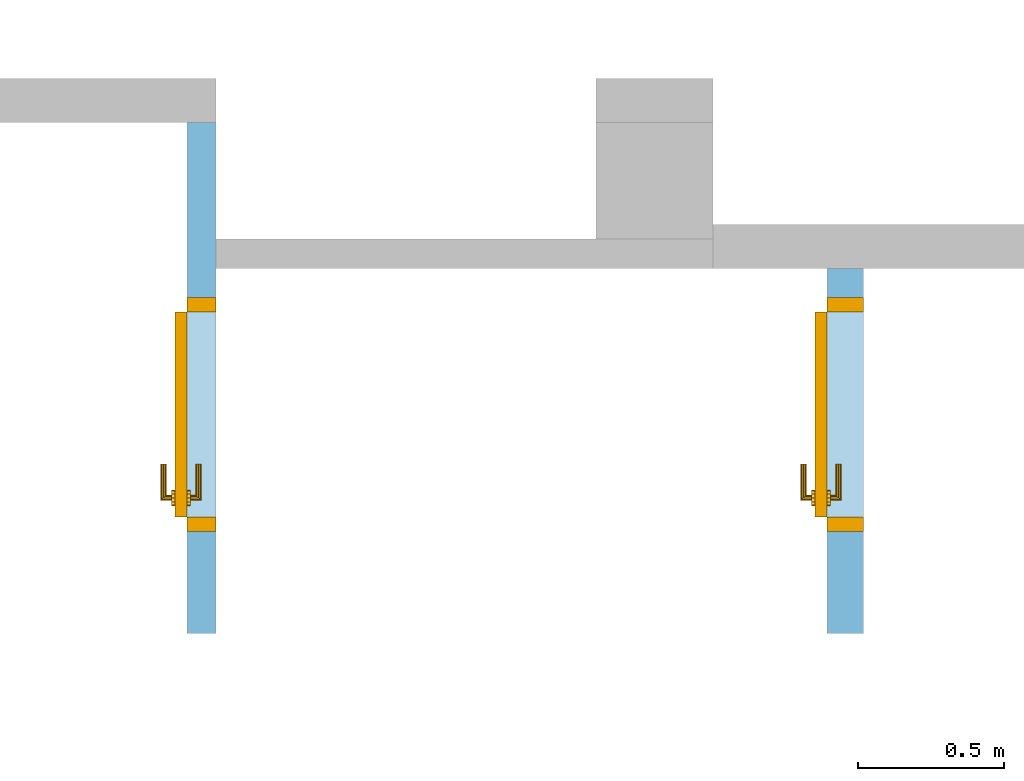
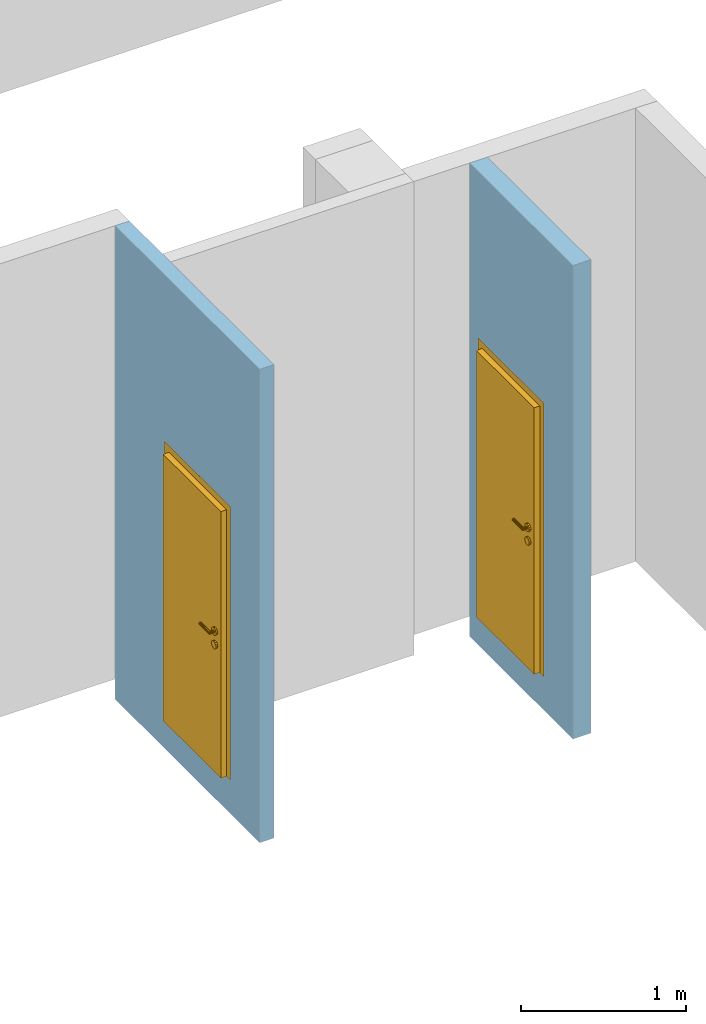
# One storey, part 32 of 37: 2 doors, 2 openings, plus 2 elements that do not belong to this part.
"""IFC4 building model written with IfcOpenShell, lengths in metres."""

from ifc_helpers import new_model, entity, si_unit, converted_unit, derived_unit, frame, frame_2d, origin, origin_with_axes, place, context, subcontext, project, spatial, polyline, rectangle, outline, extrude, closed_shell, open_shell, surface_model, source, transform, mapped, material, layer, layer_set, layer_usage, type_object, element, fill, save


model = new_model("IFC4")

# Units and contexts
model_context = context("Model", 3, precision=1e-05, world=origin())
body_context = subcontext(model_context, "Body", "Model", "MODEL_VIEW")
ifc_project = project(units=[si_unit("LENGTHUNIT", "METRE"), si_unit("AREAUNIT", "SQUARE_METRE"), si_unit("VOLUMEUNIT", "CUBIC_METRE"), si_unit("MASSUNIT", "GRAM", prefix="KILO"), converted_unit("PLANEANGLEUNIT", "DEGREE", entity("IfcPlaneAngleMeasure", 0.0174532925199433), si_unit("PLANEANGLEUNIT", "RADIAN"), dimensions=[0, 0, 0, 0, 0, 0, 0]), derived_unit("THERMALTRANSMITTANCEUNIT", [(si_unit("POWERUNIT", "WATT"), 1), (si_unit("THERMODYNAMICTEMPERATUREUNIT", "KELVIN"), -1), (si_unit("LENGTHUNIT", "METRE"), -2)]), derived_unit("VOLUMETRICFLOWRATEUNIT", [(si_unit("LENGTHUNIT", "METRE"), 3), (converted_unit("TIMEUNIT", "hour", entity("IfcTimeMeasure", 3600.0), si_unit("TIMEUNIT", "SECOND"), dimensions=[0, 0, 1, 0, 0, 0, 0]), -1), (si_unit("LENGTHUNIT", "METRE"), -1)])], contexts=[model_context])

# Site, building, storey
site_placement = place(None, origin())
site = spatial("IfcSite", under=ifc_project, at=site_placement, Name="3. ASŘ", CompositionType="ELEMENT")
building_placement = place(site_placement, origin())
building = spatial("IfcBuilding", under=site, at=building_placement, Name="Pavilon B", CompositionType="ELEMENT")
storey_placement = place(building_placement, origin())
storey = spatial("IfcBuildingStorey", under=building, at=storey_placement, Name="Půdorys 1.NP", CompositionType="ELEMENT", Elevation=0.0)

# Wall, opening, door
ifc_material_1 = material(Name="YTONG 100")
ifc_layer_1 = layer(ifc_material_1, 0.1)
ifc_layer_set_1 = layer_set([ifc_layer_1])
ifc_layer_usage_1 = layer_usage(ifc_layer_set_1, "AXIS2", "POSITIVE", 0.0)
wall_1_placement = place(storey_placement, frame((54.8, -23.15, -0.25), z_axis=(0.0, 0.0, 1.0), x_axis=(0.0, 1.0, 0.0)))
wall_1 = element("IfcWall", 1, at=wall_1_placement, inside=storey, material=ifc_layer_usage_1, Name="YTONG 100", context=body_context, shape_type="SweptSolid", body=[
    extrude(rectangle(XDim=1.75, YDim=0.1, at=frame_2d((0.875, 0.05), x_axis=(1.0, 0.0))), origin_with_axes(), (0.0, 0.0, 1.0), 3.5),
])
opening_1_placement = place(wall_1_placement, frame((0.350000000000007, 0.0, 0.25), z_axis=(0.0, 1.0, 0.0), x_axis=(0.0, 0.0, 1.0)))
opening_1 = element("IfcOpeningElement", 2, at=opening_1_placement, cuts=wall_1, Name="Dveřní otvor", ObjectType="Opening", context=body_context, shape_type="SweptSolid", body=[
    extrude(outline(polyline([(0.0, 0.8), (2.02, 0.8), (2.02, 0.0), (0.0, 0.0), (0.0, 0.8)])), origin_with_axes(), (0.0, 0.0, 1.0), 0.1),
])
door_type_1 = type_object("IfcDoorType", Name="D101", OperationType="NOTDEFINED", ParameterTakesPrecedence=False, PredefinedType="DOOR")
shared_shape_1 = source(origin_with_axes(), body_context, "Body", "SurfaceModel", [
    surface_model("IfcShellBasedSurfaceModel", [(0.0, 0.1, 2.02), (0.0, 0.1, -6.12323399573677e-18), (0.05, 0.1, -6.12323399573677e-18), (0.05, 0.1, 2.02), (0.0, 0.0, 6.12323399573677e-18), (0.0, 2.41584530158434e-16, 2.02), (0.05, 2.41584530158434e-16, 2.02), (0.05, 0.0, 6.12323399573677e-18)], [closed_shell([[[0, 1, 2, 3]], [[4, 5, 6, 7]], [[1, 0, 5, 4]], [[2, 1, 4, 7]], [[3, 2, 7, 6]], [[0, 3, 6, 5]]], orient=[[False], [False], [False], [False], [False], [False]])]),
    surface_model("IfcShellBasedSurfaceModel", [(0.75, 0.1, 2.02), (0.75, 0.1, -6.12323399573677e-18), (0.8, 0.1, -6.12323399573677e-18), (0.8, 0.1, 2.02), (0.75, 0.0, 6.12323399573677e-18), (0.75, 2.41584530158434e-16, 2.02), (0.8, 2.41584530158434e-16, 2.02), (0.8, 0.0, 6.12323399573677e-18)], [closed_shell([[[0, 1, 2, 3]], [[4, 5, 6, 7]], [[1, 0, 5, 4]], [[2, 1, 4, 7]], [[3, 2, 7, 6]], [[0, 3, 6, 5]]], orient=[[False], [False], [False], [False], [False], [False]])]),
    surface_model("IfcShellBasedSurfaceModel", [(0.05, 0.1, 2.02), (0.05, 0.1, 1.97), (0.75, 0.1, 1.97), (0.75, 0.1, 2.02), (0.05, 2.41584530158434e-16, 1.97), (0.05, 2.41584530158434e-16, 2.02), (0.75, 2.41584530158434e-16, 2.02), (0.75, 2.41584530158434e-16, 1.97)], [closed_shell([[[0, 1, 2, 3]], [[4, 5, 6, 7]], [[1, 0, 5, 4]], [[2, 1, 4, 7]], [[3, 2, 7, 6]], [[0, 3, 6, 5]]], orient=[[False], [False], [False], [False], [False], [False]])]),
    surface_model("IfcShellBasedSurfaceModel", [(0.05, 0.14, 1.97), (0.05, 0.14, -1.10218211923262e-17), (0.75, 0.14, -1.10218211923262e-17), (0.75, 0.14, 1.97), (0.05, 0.1, -6.12323399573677e-18), (0.05, 0.1, 1.97), (0.75, 0.1, 1.97), (0.75, 0.1, -6.12323399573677e-18)], [closed_shell([[[0, 1, 2, 3]], [[4, 5, 6, 7]], [[1, 0, 5, 4]], [[2, 1, 4, 7]], [[3, 2, 7, 6]], [[0, 3, 6, 5]]], orient=[[False], [False], [False], [False], [False], [False]])]),
    surface_model("IfcShellBasedSurfaceModel", [(0.708815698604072, 0.1, 0.93625), (0.7125, 0.1, 0.95), (0.708815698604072, 0.1, 0.96375), (0.69875, 0.1, 0.973815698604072), (0.685, 0.1, 0.9775), (0.67125, 0.1, 0.973815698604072), (0.661184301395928, 0.1, 0.96375), (0.6575, 0.1, 0.95), (0.661184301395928, 0.1, 0.93625), (0.67125, 0.1, 0.926184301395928), (0.685, 0.1, 0.9225), (0.69875, 0.1, 0.926184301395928), (0.7125, 0.0875000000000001, 0.95), (0.708815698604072, 0.0875000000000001, 0.93625), (0.69875, 0.0875000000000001, 0.926184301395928), (0.685, 0.0875000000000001, 0.9225), (0.67125, 0.0875000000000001, 0.926184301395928), (0.661184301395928, 0.0875000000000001, 0.93625), (0.6575, 0.0875000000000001, 0.95), (0.661184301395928, 0.0875000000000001, 0.96375), (0.67125, 0.0875000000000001, 0.973815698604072), (0.685, 0.0875000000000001, 0.9775), (0.69875, 0.0875000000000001, 0.973815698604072), (0.708815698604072, 0.0875000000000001, 0.96375)], [closed_shell([[[0, 1, 2, 3, 4, 5, 6, 7, 8, 9, 10, 11]], [[12, 13, 14, 15, 16, 17, 18, 19, 20, 21, 22, 23]], [[1, 0, 13, 12]], [[2, 1, 12, 23]], [[3, 2, 23, 22]], [[4, 3, 22, 21]], [[5, 4, 21, 20]], [[6, 5, 20, 19]], [[7, 6, 19, 18]], [[8, 7, 18, 17]], [[9, 8, 17, 16]], [[10, 9, 16, 15]], [[11, 10, 15, 14]], [[0, 11, 14, 13]]], orient=[[False], [False], [False], [False], [False], [False], [False], [False], [False], [False], [False], [False], [False], [False]])]),
    surface_model("IfcShellBasedSurfaceModel", [(0.708815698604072, 0.1, 1.03625), (0.7125, 0.1, 1.05), (0.708815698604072, 0.1, 1.06375), (0.69875, 0.1, 1.07381569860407), (0.685, 0.1, 1.0775), (0.67125, 0.1, 1.07381569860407), (0.661184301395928, 0.1, 1.06375), (0.6575, 0.1, 1.05), (0.661184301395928, 0.1, 1.03625), (0.67125, 0.1, 1.02618430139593), (0.685, 0.1, 1.0225), (0.69875, 0.1, 1.02618430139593), (0.7125, 0.0875000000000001, 1.05), (0.708815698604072, 0.0875000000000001, 1.03625), (0.69875, 0.0875000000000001, 1.02618430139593), (0.685, 0.0875000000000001, 1.0225), (0.67125, 0.0875000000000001, 1.02618430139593), (0.661184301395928, 0.0875000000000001, 1.03625), (0.6575, 0.0875000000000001, 1.05), (0.661184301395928, 0.0875000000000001, 1.06375), (0.67125, 0.0875000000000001, 1.07381569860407), (0.685, 0.0875000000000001, 1.0775), (0.69875, 0.0875000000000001, 1.07381569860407), (0.708815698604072, 0.0875000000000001, 1.06375)], [closed_shell([[[0, 1, 2, 3, 4, 5, 6, 7, 8, 9, 10, 11]], [[12, 13, 14, 15, 16, 17, 18, 19, 20, 21, 22, 23]], [[1, 0, 13, 12]], [[2, 1, 12, 23]], [[3, 2, 23, 22]], [[4, 3, 22, 21]], [[5, 4, 21, 20]], [[6, 5, 20, 19]], [[7, 6, 19, 18]], [[8, 7, 18, 17]], [[9, 8, 17, 16]], [[10, 9, 16, 15]], [[11, 10, 15, 14]], [[0, 11, 14, 13]]], orient=[[False], [False], [False], [False], [False], [False], [False], [False], [False], [False], [False], [False], [False], [False]])]),
    surface_model("IfcShellBasedSurfaceModel", [(0.685, 0.1, 1.06), (0.68, 0.1, 1.05866025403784), (0.676339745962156, 0.1, 1.055), (0.675, 0.1, 1.05), (0.676339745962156, 0.1, 1.045), (0.68, 0.1, 1.04133974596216), (0.685, 0.1, 1.04), (0.69, 0.1, 1.04133974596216), (0.693660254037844, 0.1, 1.045), (0.695, 0.1, 1.05), (0.693660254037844, 0.1, 1.055), (0.69, 0.1, 1.05866025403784), (0.69, 0.0550000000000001, 1.05866025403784), (0.685, 0.0600000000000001, 1.06), (0.693660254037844, 0.0513397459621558, 1.055), (0.695, 0.0500000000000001, 1.05), (0.693660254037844, 0.0513397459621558, 1.045), (0.69, 0.0550000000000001, 1.04133974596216), (0.685, 0.0600000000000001, 1.04), (0.68, 0.0650000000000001, 1.04133974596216), (0.676339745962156, 0.0686602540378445, 1.045), (0.675, 0.0700000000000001, 1.05), (0.676339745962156, 0.0686602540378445, 1.055), (0.68, 0.0650000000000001, 1.05866025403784), (0.57, 0.0550000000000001, 1.05866025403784), (0.57, 0.0600000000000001, 1.06), (0.57, 0.0513397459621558, 1.055), (0.57, 0.0500000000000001, 1.05), (0.57, 0.0513397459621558, 1.045), (0.57, 0.0550000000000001, 1.04133974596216), (0.57, 0.0600000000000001, 1.04), (0.57, 0.0650000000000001, 1.04133974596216), (0.57, 0.0686602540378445, 1.045), (0.57, 0.0700000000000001, 1.05), (0.57, 0.0686602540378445, 1.055), (0.57, 0.0650000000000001, 1.05866025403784)], [open_shell([[[0, 1, 2, 3, 4, 5, 6, 7, 8, 9, 10, 11]], [[0, 11, 12, 13]], [[11, 10, 14, 12]], [[10, 9, 15, 14]], [[9, 8, 16, 15]], [[8, 7, 17, 16]], [[7, 6, 18, 17]], [[6, 5, 19, 18]], [[5, 4, 20, 19]], [[4, 3, 21, 20]], [[3, 2, 22, 21]], [[2, 1, 23, 22]], [[1, 0, 13, 23]], [[13, 12, 24, 25]], [[12, 14, 26, 24]], [[14, 15, 27, 26]], [[15, 16, 28, 27]], [[16, 17, 29, 28]], [[17, 18, 30, 29]], [[18, 19, 31, 30]], [[19, 20, 32, 31]], [[20, 21, 33, 32]], [[21, 22, 34, 33]], [[22, 23, 35, 34]], [[23, 13, 25, 35]]], orient=[[False], [False], [False], [False], [False], [False], [False], [False], [False], [False], [False], [False], [False], [False], [False], [False], [False], [False], [False], [False], [False], [False], [False], [False], [False]])]),
    surface_model("IfcShellBasedSurfaceModel", [(0.708815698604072, 0.14, 0.93625), (0.69875, 0.14, 0.926184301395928), (0.685, 0.14, 0.9225), (0.67125, 0.14, 0.926184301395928), (0.661184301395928, 0.14, 0.93625), (0.6575, 0.14, 0.95), (0.661184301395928, 0.14, 0.96375), (0.67125, 0.14, 0.973815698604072), (0.685, 0.14, 0.9775), (0.69875, 0.14, 0.973815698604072), (0.708815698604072, 0.14, 0.96375), (0.7125, 0.14, 0.95), (0.7125, 0.1525, 0.95), (0.708815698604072, 0.1525, 0.96375), (0.69875, 0.1525, 0.973815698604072), (0.685, 0.1525, 0.9775), (0.67125, 0.1525, 0.973815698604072), (0.661184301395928, 0.1525, 0.96375), (0.6575, 0.1525, 0.95), (0.661184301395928, 0.1525, 0.93625), (0.67125, 0.1525, 0.926184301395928), (0.685, 0.1525, 0.9225), (0.69875, 0.1525, 0.926184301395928), (0.708815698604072, 0.1525, 0.93625)], [closed_shell([[[0, 1, 2, 3, 4, 5, 6, 7, 8, 9, 10, 11]], [[12, 13, 14, 15, 16, 17, 18, 19, 20, 21, 22, 23]], [[11, 12, 23, 0]], [[10, 13, 12, 11]], [[9, 14, 13, 10]], [[8, 15, 14, 9]], [[7, 16, 15, 8]], [[6, 17, 16, 7]], [[5, 18, 17, 6]], [[4, 19, 18, 5]], [[3, 20, 19, 4]], [[2, 21, 20, 3]], [[1, 22, 21, 2]], [[0, 23, 22, 1]]], orient=[[False], [False], [False], [False], [False], [False], [False], [False], [False], [False], [False], [False], [False], [False]])]),
    surface_model("IfcShellBasedSurfaceModel", [(0.708815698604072, 0.14, 1.03625), (0.69875, 0.14, 1.02618430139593), (0.685, 0.14, 1.0225), (0.67125, 0.14, 1.02618430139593), (0.661184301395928, 0.14, 1.03625), (0.6575, 0.14, 1.05), (0.661184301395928, 0.14, 1.06375), (0.67125, 0.14, 1.07381569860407), (0.685, 0.14, 1.0775), (0.69875, 0.14, 1.07381569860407), (0.708815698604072, 0.14, 1.06375), (0.7125, 0.14, 1.05), (0.7125, 0.1525, 1.05), (0.708815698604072, 0.1525, 1.06375), (0.69875, 0.1525, 1.07381569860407), (0.685, 0.1525, 1.0775), (0.67125, 0.1525, 1.07381569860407), (0.661184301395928, 0.1525, 1.06375), (0.6575, 0.1525, 1.05), (0.661184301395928, 0.1525, 1.03625), (0.67125, 0.1525, 1.02618430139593), (0.685, 0.1525, 1.0225), (0.69875, 0.1525, 1.02618430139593), (0.708815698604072, 0.1525, 1.03625)], [closed_shell([[[0, 1, 2, 3, 4, 5, 6, 7, 8, 9, 10, 11]], [[12, 13, 14, 15, 16, 17, 18, 19, 20, 21, 22, 23]], [[11, 12, 23, 0]], [[10, 13, 12, 11]], [[9, 14, 13, 10]], [[8, 15, 14, 9]], [[7, 16, 15, 8]], [[6, 17, 16, 7]], [[5, 18, 17, 6]], [[4, 19, 18, 5]], [[3, 20, 19, 4]], [[2, 21, 20, 3]], [[1, 22, 21, 2]], [[0, 23, 22, 1]]], orient=[[False], [False], [False], [False], [False], [False], [False], [False], [False], [False], [False], [False], [False], [False]])]),
    surface_model("IfcShellBasedSurfaceModel", [(0.685, 0.14, 1.06), (0.69, 0.14, 1.05866025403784), (0.693660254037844, 0.14, 1.055), (0.695, 0.14, 1.05), (0.693660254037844, 0.14, 1.045), (0.69, 0.14, 1.04133974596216), (0.685, 0.14, 1.04), (0.68, 0.14, 1.04133974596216), (0.676339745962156, 0.14, 1.045), (0.675, 0.14, 1.05), (0.676339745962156, 0.14, 1.055), (0.68, 0.14, 1.05866025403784), (0.685, 0.18, 1.06), (0.69, 0.185, 1.05866025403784), (0.693660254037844, 0.188660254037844, 1.055), (0.695, 0.19, 1.05), (0.693660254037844, 0.188660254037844, 1.045), (0.69, 0.185, 1.04133974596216), (0.685, 0.18, 1.04), (0.68, 0.175, 1.04133974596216), (0.676339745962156, 0.171339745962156, 1.045), (0.675, 0.17, 1.05), (0.676339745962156, 0.171339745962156, 1.055), (0.68, 0.175, 1.05866025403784), (0.57, 0.18, 1.06), (0.57, 0.185, 1.05866025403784), (0.57, 0.188660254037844, 1.055), (0.57, 0.19, 1.05), (0.57, 0.188660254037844, 1.045), (0.57, 0.185, 1.04133974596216), (0.57, 0.18, 1.04), (0.57, 0.175, 1.04133974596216), (0.57, 0.171339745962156, 1.045), (0.57, 0.17, 1.05), (0.57, 0.171339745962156, 1.055), (0.57, 0.175, 1.05866025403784)], [open_shell([[[0, 1, 2, 3, 4, 5, 6, 7, 8, 9, 10, 11]], [[0, 12, 13, 1]], [[1, 13, 14, 2]], [[2, 14, 15, 3]], [[3, 15, 16, 4]], [[4, 16, 17, 5]], [[5, 17, 18, 6]], [[6, 18, 19, 7]], [[7, 19, 20, 8]], [[8, 20, 21, 9]], [[9, 21, 22, 10]], [[10, 22, 23, 11]], [[11, 23, 12, 0]], [[12, 24, 25, 13]], [[13, 25, 26, 14]], [[14, 26, 27, 15]], [[15, 27, 28, 16]], [[16, 28, 29, 17]], [[17, 29, 30, 18]], [[18, 30, 31, 19]], [[19, 31, 32, 20]], [[20, 32, 33, 21]], [[21, 33, 34, 22]], [[22, 34, 35, 23]], [[23, 35, 24, 12]]], orient=[[False], [False], [False], [False], [False], [False], [False], [False], [False], [False], [False], [False], [False], [False], [False], [False], [False], [False], [False], [False], [False], [False], [False], [False], [False]])]),
])
door_1_placement = place(opening_1_placement, frame((0.0, 0.800000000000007, 1.45519152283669e-14), z_axis=(1.0, 0.0, 0.0), x_axis=(0.0, -1.0, 1.22464679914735e-16)))
door_1 = element("IfcDoor", 3, at=door_1_placement, inside=storey, type_object=door_type_1, Name="D101", OverallHeight=2.02, OverallWidth=0.8, context=body_context, shape_type="MappedRepresentation", body=[
    mapped(shared_shape_1, transform((0.0, 0.0, 0.0), x_axis=(1.0, 0.0, 0.0), y_axis=(0.0, -1.0, 0.0), z_axis=(0.0, 0.0, 1.0), scale=1.0)),
])
fill(opening_1, door_1)

ifc_material_2 = material(Name="YTONG 125")
ifc_layer_2 = layer(ifc_material_2, 0.125)
ifc_layer_set_2 = layer_set([ifc_layer_2])
ifc_layer_usage_2 = layer_usage(ifc_layer_set_2, "AXIS2", "POSITIVE", 0.0)
wall_2_placement = place(storey_placement, frame((57.015, -23.15, -0.25), z_axis=(0.0, 0.0, 1.0), x_axis=(0.0, 1.0, 0.0)))
wall_2 = element("IfcWall", 4, at=wall_2_placement, inside=storey, material=ifc_layer_usage_2, Name="YTONG 125", context=body_context, shape_type="SweptSolid", body=[
    extrude(rectangle(XDim=1.25, YDim=0.125, at=frame_2d((0.625, 0.0625), x_axis=(1.0, 0.0))), origin_with_axes(), (0.0, 0.0, 1.0), 3.5),
])
opening_2_placement = place(wall_2_placement, frame((0.350000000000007, 0.0, 0.25), z_axis=(0.0, 1.0, 0.0), x_axis=(0.0, 0.0, 1.0)))
opening_2 = element("IfcOpeningElement", 5, at=opening_2_placement, cuts=wall_2, Name="Dveřní otvor", ObjectType="Opening", context=body_context, shape_type="SweptSolid", body=[
    extrude(outline(polyline([(0.0, 0.8), (2.02, 0.8), (2.02, 0.0), (0.0, 0.0), (0.0, 0.8)])), origin_with_axes(), (0.0, 0.0, 1.0), 0.125),
])
door_type_2 = type_object("IfcDoorType", Name="D101", OperationType="NOTDEFINED", ParameterTakesPrecedence=False, PredefinedType="DOOR")
shared_shape_2 = source(origin_with_axes(), body_context, "Body", "SurfaceModel", [
    surface_model("IfcShellBasedSurfaceModel", [(0.0, 0.125, 2.02), (0.0, 0.125, -7.65404249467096e-18), (0.05, 0.125, -7.65404249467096e-18), (0.05, 0.125, 2.02), (0.0, 0.0, 7.65404249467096e-18), (0.0, 2.41584530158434e-16, 2.02), (0.05, 2.41584530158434e-16, 2.02), (0.05, 0.0, 7.65404249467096e-18)], [closed_shell([[[0, 1, 2, 3]], [[4, 5, 6, 7]], [[1, 0, 5, 4]], [[2, 1, 4, 7]], [[3, 2, 7, 6]], [[0, 3, 6, 5]]], orient=[[False], [False], [False], [False], [False], [False]])]),
    surface_model("IfcShellBasedSurfaceModel", [(0.75, 0.125, 2.02), (0.75, 0.125, -7.65404249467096e-18), (0.8, 0.125, -7.65404249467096e-18), (0.8, 0.125, 2.02), (0.75, 0.0, 7.65404249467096e-18), (0.75, 2.41584530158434e-16, 2.02), (0.8, 2.41584530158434e-16, 2.02), (0.8, 0.0, 7.65404249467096e-18)], [closed_shell([[[0, 1, 2, 3]], [[4, 5, 6, 7]], [[1, 0, 5, 4]], [[2, 1, 4, 7]], [[3, 2, 7, 6]], [[0, 3, 6, 5]]], orient=[[False], [False], [False], [False], [False], [False]])]),
    surface_model("IfcShellBasedSurfaceModel", [(0.05, 0.125, 2.02), (0.05, 0.125, 1.97), (0.75, 0.125, 1.97), (0.75, 0.125, 2.02), (0.05, 2.41584530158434e-16, 1.97), (0.05, 2.41584530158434e-16, 2.02), (0.75, 2.41584530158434e-16, 2.02), (0.75, 2.41584530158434e-16, 1.97)], [closed_shell([[[0, 1, 2, 3]], [[4, 5, 6, 7]], [[1, 0, 5, 4]], [[2, 1, 4, 7]], [[3, 2, 7, 6]], [[0, 3, 6, 5]]], orient=[[False], [False], [False], [False], [False], [False]])]),
    surface_model("IfcShellBasedSurfaceModel", [(0.05, 0.165, 1.97), (0.05, 0.165, -1.25526296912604e-17), (0.75, 0.165, -1.25526296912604e-17), (0.75, 0.165, 1.97), (0.05, 0.125, -7.65404249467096e-18), (0.05, 0.125, 1.97), (0.75, 0.125, 1.97), (0.75, 0.125, -7.65404249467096e-18)], [closed_shell([[[0, 1, 2, 3]], [[4, 5, 6, 7]], [[1, 0, 5, 4]], [[2, 1, 4, 7]], [[3, 2, 7, 6]], [[0, 3, 6, 5]]], orient=[[False], [False], [False], [False], [False], [False]])]),
    surface_model("IfcShellBasedSurfaceModel", [(0.708815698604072, 0.125, 0.93625), (0.7125, 0.125, 0.95), (0.708815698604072, 0.125, 0.96375), (0.69875, 0.125, 0.973815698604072), (0.685, 0.125, 0.9775), (0.67125, 0.125, 0.973815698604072), (0.661184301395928, 0.125, 0.96375), (0.6575, 0.125, 0.95), (0.661184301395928, 0.125, 0.93625), (0.67125, 0.125, 0.926184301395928), (0.685, 0.125, 0.9225), (0.69875, 0.125, 0.926184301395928), (0.7125, 0.1125, 0.95), (0.708815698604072, 0.1125, 0.93625), (0.69875, 0.1125, 0.926184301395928), (0.685, 0.1125, 0.9225), (0.67125, 0.1125, 0.926184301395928), (0.661184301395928, 0.1125, 0.93625), (0.6575, 0.1125, 0.95), (0.661184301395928, 0.1125, 0.96375), (0.67125, 0.1125, 0.973815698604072), (0.685, 0.1125, 0.9775), (0.69875, 0.1125, 0.973815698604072), (0.708815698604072, 0.1125, 0.96375)], [closed_shell([[[0, 1, 2, 3, 4, 5, 6, 7, 8, 9, 10, 11]], [[12, 13, 14, 15, 16, 17, 18, 19, 20, 21, 22, 23]], [[1, 0, 13, 12]], [[2, 1, 12, 23]], [[3, 2, 23, 22]], [[4, 3, 22, 21]], [[5, 4, 21, 20]], [[6, 5, 20, 19]], [[7, 6, 19, 18]], [[8, 7, 18, 17]], [[9, 8, 17, 16]], [[10, 9, 16, 15]], [[11, 10, 15, 14]], [[0, 11, 14, 13]]], orient=[[False], [False], [False], [False], [False], [False], [False], [False], [False], [False], [False], [False], [False], [False]])]),
    surface_model("IfcShellBasedSurfaceModel", [(0.708815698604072, 0.125, 1.03625), (0.7125, 0.125, 1.05), (0.708815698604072, 0.125, 1.06375), (0.69875, 0.125, 1.07381569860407), (0.685, 0.125, 1.0775), (0.67125, 0.125, 1.07381569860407), (0.661184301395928, 0.125, 1.06375), (0.6575, 0.125, 1.05), (0.661184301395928, 0.125, 1.03625), (0.67125, 0.125, 1.02618430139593), (0.685, 0.125, 1.0225), (0.69875, 0.125, 1.02618430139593), (0.7125, 0.1125, 1.05), (0.708815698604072, 0.1125, 1.03625), (0.69875, 0.1125, 1.02618430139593), (0.685, 0.1125, 1.0225), (0.67125, 0.1125, 1.02618430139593), (0.661184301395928, 0.1125, 1.03625), (0.6575, 0.1125, 1.05), (0.661184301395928, 0.1125, 1.06375), (0.67125, 0.1125, 1.07381569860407), (0.685, 0.1125, 1.0775), (0.69875, 0.1125, 1.07381569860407), (0.708815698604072, 0.1125, 1.06375)], [closed_shell([[[0, 1, 2, 3, 4, 5, 6, 7, 8, 9, 10, 11]], [[12, 13, 14, 15, 16, 17, 18, 19, 20, 21, 22, 23]], [[1, 0, 13, 12]], [[2, 1, 12, 23]], [[3, 2, 23, 22]], [[4, 3, 22, 21]], [[5, 4, 21, 20]], [[6, 5, 20, 19]], [[7, 6, 19, 18]], [[8, 7, 18, 17]], [[9, 8, 17, 16]], [[10, 9, 16, 15]], [[11, 10, 15, 14]], [[0, 11, 14, 13]]], orient=[[False], [False], [False], [False], [False], [False], [False], [False], [False], [False], [False], [False], [False], [False]])]),
    surface_model("IfcShellBasedSurfaceModel", [(0.685, 0.125, 1.06), (0.68, 0.125, 1.05866025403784), (0.676339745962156, 0.125, 1.055), (0.675, 0.125, 1.05), (0.676339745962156, 0.125, 1.045), (0.68, 0.125, 1.04133974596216), (0.685, 0.125, 1.04), (0.69, 0.125, 1.04133974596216), (0.693660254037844, 0.125, 1.045), (0.695, 0.125, 1.05), (0.693660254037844, 0.125, 1.055), (0.69, 0.125, 1.05866025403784), (0.69, 0.0800000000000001, 1.05866025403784), (0.685, 0.0850000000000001, 1.06), (0.693660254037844, 0.0763397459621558, 1.055), (0.695, 0.0750000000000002, 1.05), (0.693660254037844, 0.0763397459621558, 1.045), (0.69, 0.0800000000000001, 1.04133974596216), (0.685, 0.0850000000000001, 1.04), (0.68, 0.0900000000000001, 1.04133974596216), (0.676339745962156, 0.0936602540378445, 1.045), (0.675, 0.0950000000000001, 1.05), (0.676339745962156, 0.0936602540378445, 1.055), (0.68, 0.0900000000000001, 1.05866025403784), (0.57, 0.0800000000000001, 1.05866025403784), (0.57, 0.0850000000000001, 1.06), (0.57, 0.0763397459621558, 1.055), (0.57, 0.0750000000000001, 1.05), (0.57, 0.0763397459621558, 1.045), (0.57, 0.0800000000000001, 1.04133974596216), (0.57, 0.0850000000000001, 1.04), (0.57, 0.0900000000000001, 1.04133974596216), (0.57, 0.0936602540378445, 1.045), (0.57, 0.0950000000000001, 1.05), (0.57, 0.0936602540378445, 1.055), (0.57, 0.0900000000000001, 1.05866025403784)], [open_shell([[[0, 1, 2, 3, 4, 5, 6, 7, 8, 9, 10, 11]], [[0, 11, 12, 13]], [[11, 10, 14, 12]], [[10, 9, 15, 14]], [[9, 8, 16, 15]], [[8, 7, 17, 16]], [[7, 6, 18, 17]], [[6, 5, 19, 18]], [[5, 4, 20, 19]], [[4, 3, 21, 20]], [[3, 2, 22, 21]], [[2, 1, 23, 22]], [[1, 0, 13, 23]], [[13, 12, 24, 25]], [[12, 14, 26, 24]], [[14, 15, 27, 26]], [[15, 16, 28, 27]], [[16, 17, 29, 28]], [[17, 18, 30, 29]], [[18, 19, 31, 30]], [[19, 20, 32, 31]], [[20, 21, 33, 32]], [[21, 22, 34, 33]], [[22, 23, 35, 34]], [[23, 13, 25, 35]]], orient=[[False], [False], [False], [False], [False], [False], [False], [False], [False], [False], [False], [False], [False], [False], [False], [False], [False], [False], [False], [False], [False], [False], [False], [False], [False]])]),
    surface_model("IfcShellBasedSurfaceModel", [(0.708815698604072, 0.165, 0.93625), (0.69875, 0.165, 0.926184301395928), (0.685, 0.165, 0.9225), (0.67125, 0.165, 0.926184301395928), (0.661184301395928, 0.165, 0.93625), (0.6575, 0.165, 0.95), (0.661184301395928, 0.165, 0.96375), (0.67125, 0.165, 0.973815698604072), (0.685, 0.165, 0.9775), (0.69875, 0.165, 0.973815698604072), (0.708815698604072, 0.165, 0.96375), (0.7125, 0.165, 0.95), (0.7125, 0.1775, 0.95), (0.708815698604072, 0.1775, 0.96375), (0.69875, 0.1775, 0.973815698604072), (0.685, 0.1775, 0.9775), (0.67125, 0.1775, 0.973815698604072), (0.661184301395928, 0.1775, 0.96375), (0.6575, 0.1775, 0.95), (0.661184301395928, 0.1775, 0.93625), (0.67125, 0.1775, 0.926184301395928), (0.685, 0.1775, 0.9225), (0.69875, 0.1775, 0.926184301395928), (0.708815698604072, 0.1775, 0.93625)], [closed_shell([[[0, 1, 2, 3, 4, 5, 6, 7, 8, 9, 10, 11]], [[12, 13, 14, 15, 16, 17, 18, 19, 20, 21, 22, 23]], [[11, 12, 23, 0]], [[10, 13, 12, 11]], [[9, 14, 13, 10]], [[8, 15, 14, 9]], [[7, 16, 15, 8]], [[6, 17, 16, 7]], [[5, 18, 17, 6]], [[4, 19, 18, 5]], [[3, 20, 19, 4]], [[2, 21, 20, 3]], [[1, 22, 21, 2]], [[0, 23, 22, 1]]], orient=[[False], [False], [False], [False], [False], [False], [False], [False], [False], [False], [False], [False], [False], [False]])]),
    surface_model("IfcShellBasedSurfaceModel", [(0.708815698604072, 0.165, 1.03625), (0.69875, 0.165, 1.02618430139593), (0.685, 0.165, 1.0225), (0.67125, 0.165, 1.02618430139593), (0.661184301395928, 0.165, 1.03625), (0.6575, 0.165, 1.05), (0.661184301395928, 0.165, 1.06375), (0.67125, 0.165, 1.07381569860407), (0.685, 0.165, 1.0775), (0.69875, 0.165, 1.07381569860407), (0.708815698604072, 0.165, 1.06375), (0.7125, 0.165, 1.05), (0.7125, 0.1775, 1.05), (0.708815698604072, 0.1775, 1.06375), (0.69875, 0.1775, 1.07381569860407), (0.685, 0.1775, 1.0775), (0.67125, 0.1775, 1.07381569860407), (0.661184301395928, 0.1775, 1.06375), (0.6575, 0.1775, 1.05), (0.661184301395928, 0.1775, 1.03625), (0.67125, 0.1775, 1.02618430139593), (0.685, 0.1775, 1.0225), (0.69875, 0.1775, 1.02618430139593), (0.708815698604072, 0.1775, 1.03625)], [closed_shell([[[0, 1, 2, 3, 4, 5, 6, 7, 8, 9, 10, 11]], [[12, 13, 14, 15, 16, 17, 18, 19, 20, 21, 22, 23]], [[11, 12, 23, 0]], [[10, 13, 12, 11]], [[9, 14, 13, 10]], [[8, 15, 14, 9]], [[7, 16, 15, 8]], [[6, 17, 16, 7]], [[5, 18, 17, 6]], [[4, 19, 18, 5]], [[3, 20, 19, 4]], [[2, 21, 20, 3]], [[1, 22, 21, 2]], [[0, 23, 22, 1]]], orient=[[False], [False], [False], [False], [False], [False], [False], [False], [False], [False], [False], [False], [False], [False]])]),
    surface_model("IfcShellBasedSurfaceModel", [(0.685, 0.165, 1.06), (0.69, 0.165, 1.05866025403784), (0.693660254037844, 0.165, 1.055), (0.695, 0.165, 1.05), (0.693660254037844, 0.165, 1.045), (0.69, 0.165, 1.04133974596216), (0.685, 0.165, 1.04), (0.68, 0.165, 1.04133974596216), (0.676339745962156, 0.165, 1.045), (0.675, 0.165, 1.05), (0.676339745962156, 0.165, 1.055), (0.68, 0.165, 1.05866025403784), (0.685, 0.205, 1.06), (0.69, 0.21, 1.05866025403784), (0.693660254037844, 0.213660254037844, 1.055), (0.695, 0.215, 1.05), (0.693660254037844, 0.213660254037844, 1.045), (0.69, 0.21, 1.04133974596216), (0.685, 0.205, 1.04), (0.68, 0.2, 1.04133974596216), (0.676339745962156, 0.196339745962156, 1.045), (0.675, 0.195, 1.05), (0.676339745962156, 0.196339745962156, 1.055), (0.68, 0.2, 1.05866025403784), (0.57, 0.205, 1.06), (0.57, 0.21, 1.05866025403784), (0.57, 0.213660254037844, 1.055), (0.57, 0.215, 1.05), (0.57, 0.213660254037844, 1.045), (0.57, 0.21, 1.04133974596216), (0.57, 0.205, 1.04), (0.57, 0.2, 1.04133974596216), (0.57, 0.196339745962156, 1.045), (0.57, 0.195, 1.05), (0.57, 0.196339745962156, 1.055), (0.57, 0.2, 1.05866025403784)], [open_shell([[[0, 1, 2, 3, 4, 5, 6, 7, 8, 9, 10, 11]], [[0, 12, 13, 1]], [[1, 13, 14, 2]], [[2, 14, 15, 3]], [[3, 15, 16, 4]], [[4, 16, 17, 5]], [[5, 17, 18, 6]], [[6, 18, 19, 7]], [[7, 19, 20, 8]], [[8, 20, 21, 9]], [[9, 21, 22, 10]], [[10, 22, 23, 11]], [[11, 23, 12, 0]], [[12, 24, 25, 13]], [[13, 25, 26, 14]], [[14, 26, 27, 15]], [[15, 27, 28, 16]], [[16, 28, 29, 17]], [[17, 29, 30, 18]], [[18, 30, 31, 19]], [[19, 31, 32, 20]], [[20, 32, 33, 21]], [[21, 33, 34, 22]], [[22, 34, 35, 23]], [[23, 35, 24, 12]]], orient=[[False], [False], [False], [False], [False], [False], [False], [False], [False], [False], [False], [False], [False], [False], [False], [False], [False], [False], [False], [False], [False], [False], [False], [False], [False]])]),
])
door_2_placement = place(opening_2_placement, frame((0.0, 0.800000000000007, 1.45519152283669e-14), z_axis=(1.0, 0.0, 0.0), x_axis=(0.0, -1.0, 1.22464679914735e-16)))
door_2 = element("IfcDoor", 6, at=door_2_placement, inside=storey, type_object=door_type_2, Name="D101", OverallHeight=2.02, OverallWidth=0.8, context=body_context, shape_type="MappedRepresentation", body=[
    mapped(shared_shape_2, transform((0.0, 0.0, 0.0), x_axis=(1.0, 0.0, 0.0), y_axis=(0.0, -1.0, 0.0), z_axis=(0.0, 0.0, 1.0), scale=1.0)),
])
fill(opening_2, door_2)

save(model, "model.ifc")
